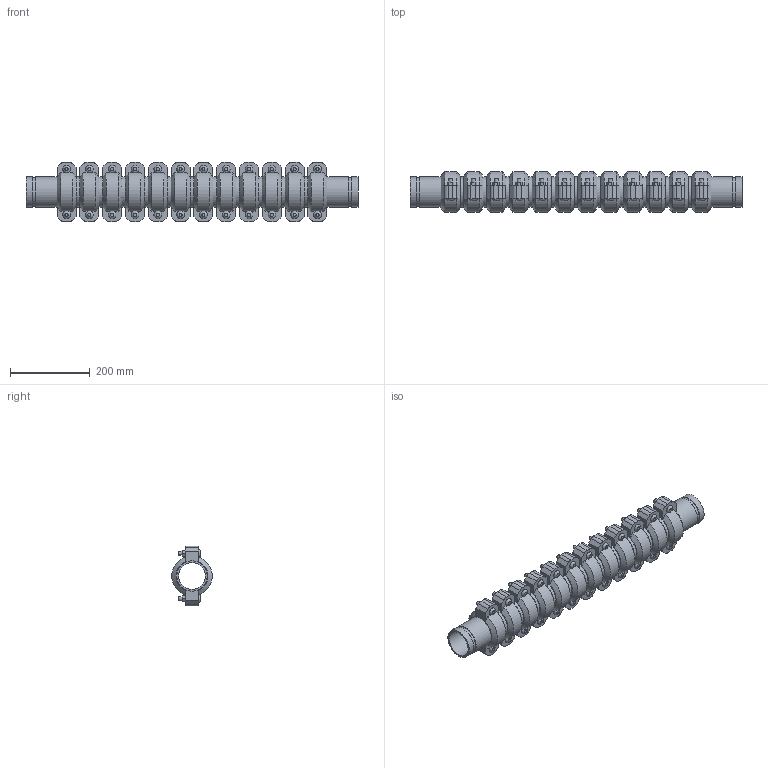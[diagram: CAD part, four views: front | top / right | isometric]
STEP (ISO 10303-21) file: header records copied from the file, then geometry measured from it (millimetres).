
FILE_DESCRIPTION(/* description */ ('VIC EXPANSION JOINT 12 COUPLINGS COMPRESSED STYLE 155 (OGS)','CAx-IF Rec.Pracs.---Representation and Presentation of Product Manufacturing Information (PMI)---4.0---2014-10-13'),/* implementation_level */ '2;1');
FILE_NAME(/* name */ 'C:\Users\kkamble\AppData\Roaming\Autodesk\ApplicationPlugins\Victaulic.Temp\A100\Victaulic_IPS_Expansion Joint_Compressed_12 Couplings_Style 155 (OGS)_02.5 (76.1) (65).stp',/* time_stamp */ '2021-06-27T00:21:16+02:00',/* author */ ('kkamble'),/* organization */ ('Victaulic'),/* preprocessor_version */ 'ST-DEVELOPER v17.2',/* originating_system */ 'Autodesk Inventor 2019',/* authorisation */ '');
FILE_SCHEMA (('CONFIG_CONTROL_DESIGN','AP242_MANAGED_MODEL_BASED_3D_ENGINEERING_MIM_LF { 1 0 10303 442 1 1 4 }'));
Length unit declared in the file: inch
Products named in the file (4): 155-02.5 (76.1); Nipple-02.5 (76.1); Nipple-02.5 (76.1)_1; 075-02.5 (76.1)
Assembly tree (25 placements, depth 2):
  155-02.5 (76.1)
    Nipple-02.5 (76.1)  x2
    Nipple-02.5 (76.1)_1  x11
    075-02.5 (76.1)  x12
Bounding box: 831.85 x 101.25 x 149.86 mm (x, y, z)
Volume: 3435619.6 mm3; surface area: 949829.8 mm2
Topology: 25 solids, 49 shells, 792 faces, 1962 edges, 1368 vertices
Faces by surface type: plane 486, cylinder 234, cone 48, bspline 24
Full cylindrical faces by diameter (mm): 9.525 x48, 11.43 x24, 66.65 x13, 72.263 x26, 76.2 x51
Entity records: 2869 total; most frequent: CARTESIAN_POINT 527, DIRECTION 477, ORIENTED_EDGE 382, AXIS2_PLACEMENT_3D 192, EDGE_CURVE 191, VERTEX_POINT 136, EDGE_LOOP 99, LINE 93
